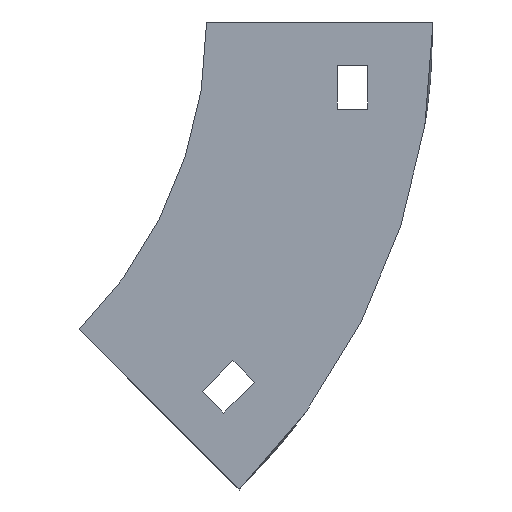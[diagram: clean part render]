
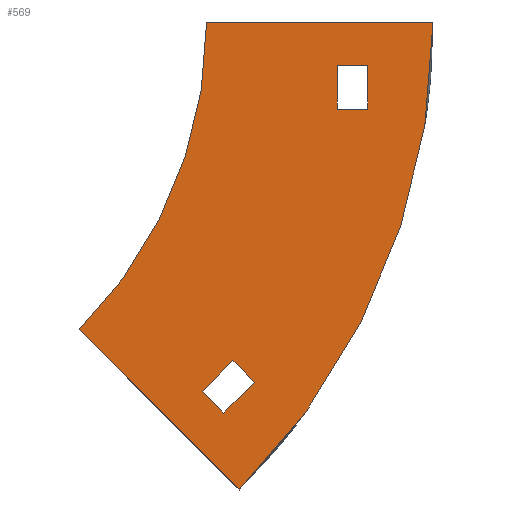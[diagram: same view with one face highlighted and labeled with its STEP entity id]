
A CAD part, left-side view. The second image highlights one B-rep face of the part: STEP entity #569.
In plain terms, the highlighted planar face has unit normal (-1, 0, 0).
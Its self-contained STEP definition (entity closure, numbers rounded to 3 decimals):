
#13 = VECTOR ( 'NONE', #315, 1000. ) ;
#19 = FACE_OUTER_BOUND ( 'NONE', #28, .T. ) ;
#28 = EDGE_LOOP ( 'NONE', ( #456, #873, #1135, #893 ) ) ;
#39 = CARTESIAN_POINT ( 'NONE',  ( -202., -37., -10. ) ) ;
#43 = DIRECTION ( 'NONE',  ( 0., 0., -1. ) ) ;
#58 = EDGE_CURVE ( 'NONE', #982, #338, #1015, .T. ) ;
#62 = AXIS2_PLACEMENT_3D ( 'NONE', #114, #827, #1104 ) ;
#78 = DIRECTION ( 'NONE',  ( 0., -0.707, 0.707 ) ) ;
#84 = CARTESIAN_POINT ( 'NONE',  ( -202., -30., -20. ) ) ;
#93 = EDGE_CURVE ( 'NONE', #611, #794, #298, .T. ) ;
#96 = CIRCLE ( 'NONE', #62, 100. ) ;
#101 = DIRECTION ( 'NONE',  ( 1., 0., 0. ) ) ;
#111 = VECTOR ( 'NONE', #566, 1000. ) ;
#112 = DIRECTION ( 'NONE',  ( 1., 0., 0. ) ) ;
#114 = CARTESIAN_POINT ( 'NONE',  ( -202., 100., 0. ) ) ;
#143 = VECTOR ( 'NONE', #815, 1000. ) ;
#145 = EDGE_CURVE ( 'NONE', #985, #715, #1017, .T. ) ;
#149 = VECTOR ( 'NONE', #217, 1000. ) ;
#152 = LINE ( 'NONE', #231, #149 ) ;
#182 = CARTESIAN_POINT ( 'NONE',  ( -202., -37., -20. ) ) ;
#185 = EDGE_CURVE ( 'NONE', #488, #387, #589, .T. ) ;
#203 = ORIENTED_EDGE ( 'NONE', *, *, #1141, .F. ) ;
#211 = DIRECTION ( 'NONE',  ( 0., -1., 0. ) ) ;
#217 = DIRECTION ( 'NONE',  ( 0., 0., 1. ) ) ;
#220 = CARTESIAN_POINT ( 'NONE',  ( -202., 0., 0. ) ) ;
#231 = CARTESIAN_POINT ( 'NONE',  ( -202., -30., -10. ) ) ;
#238 = ORIENTED_EDGE ( 'NONE', *, *, #185, .T. ) ;
#243 = CARTESIAN_POINT ( 'NONE',  ( -202., -52., 0. ) ) ;
#258 = VECTOR ( 'NONE', #560, 1000. ) ;
#271 = EDGE_CURVE ( 'NONE', #539, #400, #866, .T. ) ;
#286 = LINE ( 'NONE', #1026, #143 ) ;
#298 = LINE ( 'NONE', #1094, #1052 ) ;
#301 = ORIENTED_EDGE ( 'NONE', *, *, #538, .F. ) ;
#315 = DIRECTION ( 'NONE',  ( 0., 0.707, 0.707 ) ) ;
#322 = EDGE_CURVE ( 'NONE', #704, #630, #699, .T. ) ;
#331 = EDGE_LOOP ( 'NONE', ( #957, #301, #467, #203 ) ) ;
#337 = CARTESIAN_POINT ( 'NONE',  ( -202., 1.005, -84.853 ) ) ;
#338 = VERTEX_POINT ( 'NONE', #243 ) ;
#341 = VECTOR ( 'NONE', #952, 1000. ) ;
#342 = CARTESIAN_POINT ( 'NONE',  ( -202., 29.289, -70.711 ) ) ;
#387 = VERTEX_POINT ( 'NONE', #84 ) ;
#400 = VERTEX_POINT ( 'NONE', #342 ) ;
#454 = AXIS2_PLACEMENT_3D ( 'NONE', #548, #101, #43 ) ;
#456 = ORIENTED_EDGE ( 'NONE', *, *, #747, .F. ) ;
#460 = CARTESIAN_POINT ( 'NONE',  ( -202., -7.48, -107.48 ) ) ;
#466 = PLANE ( 'NONE',  #454 ) ;
#467 = ORIENTED_EDGE ( 'NONE', *, *, #93, .F. ) ;
#488 = VERTEX_POINT ( 'NONE', #182 ) ;
#512 = LINE ( 'NONE', #953, #718 ) ;
#516 = DIRECTION ( 'NONE',  ( 0., -0.707, -0.707 ) ) ;
#538 = EDGE_CURVE ( 'NONE', #794, #704, #286, .T. ) ;
#539 = VERTEX_POINT ( 'NONE', #460 ) ;
#548 = CARTESIAN_POINT ( 'NONE',  ( -202., 100., 0. ) ) ;
#549 = CARTESIAN_POINT ( 'NONE',  ( -202., 1.005, -84.853 ) ) ;
#560 = DIRECTION ( 'NONE',  ( 0., 0., -1. ) ) ;
#566 = DIRECTION ( 'NONE',  ( 0., -1., 0. ) ) ;
#569 = ADVANCED_FACE ( 'NONE', ( #19, #995, #1012 ), #466, .F. ) ;
#576 = DIRECTION ( 'NONE',  ( 0., 0., -1. ) ) ;
#577 = ORIENTED_EDGE ( 'NONE', *, *, #145, .T. ) ;
#589 = LINE ( 'NONE', #759, #341 ) ;
#603 = CIRCLE ( 'NONE', #749, 152. ) ;
#611 = VERTEX_POINT ( 'NONE', #933 ) ;
#630 = VERTEX_POINT ( 'NONE', #860 ) ;
#648 = CARTESIAN_POINT ( 'NONE',  ( -202., -30., -10. ) ) ;
#699 = LINE ( 'NONE', #549, #853 ) ;
#704 = VERTEX_POINT ( 'NONE', #337 ) ;
#715 = VERTEX_POINT ( 'NONE', #1070 ) ;
#718 = VECTOR ( 'NONE', #78, 1000. ) ;
#740 = DIRECTION ( 'NONE',  ( 0., 0.707, 0.707 ) ) ;
#747 = EDGE_CURVE ( 'NONE', #400, #982, #96, .T. ) ;
#749 = AXIS2_PLACEMENT_3D ( 'NONE', #1010, #112, #576 ) ;
#759 = CARTESIAN_POINT ( 'NONE',  ( -202., -30., -20. ) ) ;
#782 = EDGE_CURVE ( 'NONE', #715, #488, #929, .T. ) ;
#791 = VECTOR ( 'NONE', #211, 1000. ) ;
#794 = VERTEX_POINT ( 'NONE', #1098 ) ;
#815 = DIRECTION ( 'NONE',  ( 0., 0.707, -0.707 ) ) ;
#827 = DIRECTION ( 'NONE',  ( -1., 0., 0. ) ) ;
#853 = VECTOR ( 'NONE', #516, 1000. ) ;
#860 = CARTESIAN_POINT ( 'NONE',  ( -202., -3.945, -89.803 ) ) ;
#866 = LINE ( 'NONE', #1118, #13 ) ;
#873 = ORIENTED_EDGE ( 'NONE', *, *, #271, .F. ) ;
#893 = ORIENTED_EDGE ( 'NONE', *, *, #58, .F. ) ;
#907 = EDGE_CURVE ( 'NONE', #387, #985, #152, .T. ) ;
#910 = ORIENTED_EDGE ( 'NONE', *, *, #782, .T. ) ;
#929 = LINE ( 'NONE', #39, #258 ) ;
#933 = CARTESIAN_POINT ( 'NONE',  ( -202., -11.016, -82.731 ) ) ;
#944 = CARTESIAN_POINT ( 'NONE',  ( -202., -30., -10. ) ) ;
#952 = DIRECTION ( 'NONE',  ( 0., 1., 0. ) ) ;
#953 = CARTESIAN_POINT ( 'NONE',  ( -202., -3.945, -89.803 ) ) ;
#955 = EDGE_CURVE ( 'NONE', #338, #539, #603, .T. ) ;
#957 = ORIENTED_EDGE ( 'NONE', *, *, #322, .F. ) ;
#982 = VERTEX_POINT ( 'NONE', #220 ) ;
#985 = VERTEX_POINT ( 'NONE', #944 ) ;
#995 = FACE_BOUND ( 'NONE', #1075, .T. ) ;
#1010 = CARTESIAN_POINT ( 'NONE',  ( -202., 100., 0. ) ) ;
#1012 = FACE_BOUND ( 'NONE', #331, .T. ) ;
#1015 = LINE ( 'NONE', #1023, #791 ) ;
#1017 = LINE ( 'NONE', #648, #111 ) ;
#1023 = CARTESIAN_POINT ( 'NONE',  ( -202., -52., 0. ) ) ;
#1026 = CARTESIAN_POINT ( 'NONE',  ( -202., 1.005, -84.853 ) ) ;
#1043 = ORIENTED_EDGE ( 'NONE', *, *, #907, .T. ) ;
#1052 = VECTOR ( 'NONE', #740, 1000. ) ;
#1070 = CARTESIAN_POINT ( 'NONE',  ( -202., -37., -10. ) ) ;
#1075 = EDGE_LOOP ( 'NONE', ( #1043, #577, #910, #238 ) ) ;
#1094 = CARTESIAN_POINT ( 'NONE',  ( -202., -6.066, -77.782 ) ) ;
#1098 = CARTESIAN_POINT ( 'NONE',  ( -202., -6.066, -77.782 ) ) ;
#1104 = DIRECTION ( 'NONE',  ( 0., 0., -1. ) ) ;
#1118 = CARTESIAN_POINT ( 'NONE',  ( -202., 29.289, -70.711 ) ) ;
#1135 = ORIENTED_EDGE ( 'NONE', *, *, #955, .F. ) ;
#1141 = EDGE_CURVE ( 'NONE', #630, #611, #512, .T. ) ;
